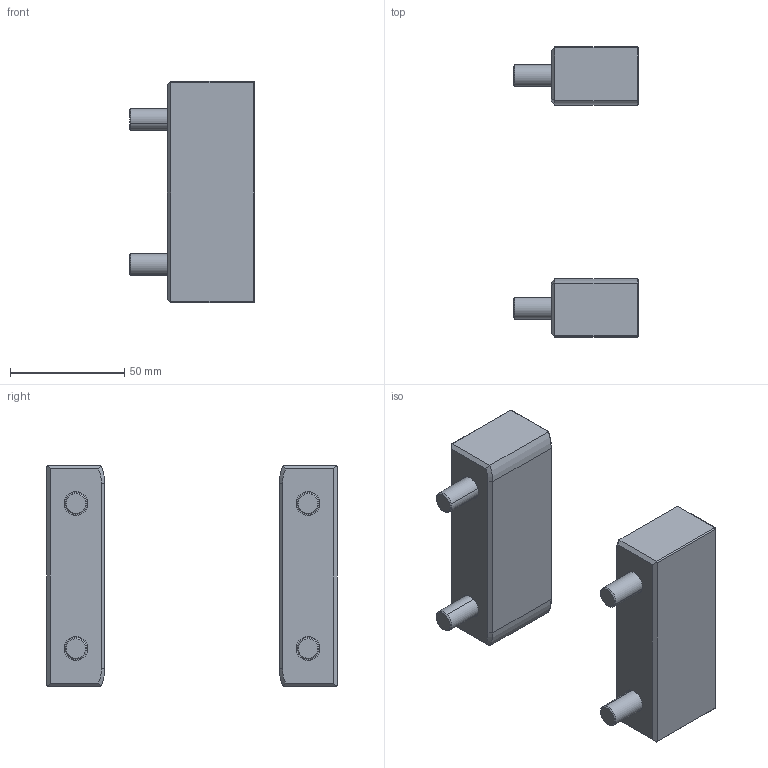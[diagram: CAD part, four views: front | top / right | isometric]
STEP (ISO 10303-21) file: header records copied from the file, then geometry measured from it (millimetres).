
FILE_DESCRIPTION (( 'STEP AP203' ), '1' );
FILE_NAME ('BLG150L3.8.step', '2016-11-21T18:57:26', ( '' ), ( '' ), 'SwSTEP 2.0', 'SolidWorks 2014', '' );
FILE_SCHEMA (( 'CONFIG_CONTROL_DESIGN' ));
Length unit declared in the file: inch
Products named in the file (3): 3-8-16x175 SHCS; BLG150L3.8
Assembly tree (6 placements, depth 2):
  BLG150L3.8
    BLG150L3.8  x2
    3-8-16x175 SHCS  x4
Bounding box: 54.61 x 127.04 x 96.77 mm (x, y, z)
Volume: 186275.3 mm3; surface area: 41336 mm2
Topology: 6 solids, 6 shells, 164 faces, 356 edges, 212 vertices
Faces by surface type: plane 88, cylinder 48, cone 12, torus 12, sphere 4
Entity records: 2019 total; most frequent: DIRECTION 298, CARTESIAN_POINT 297, ORIENTED_EDGE 252, EDGE_CURVE 126, AXIS2_PLACEMENT_3D 113, VERTEX_POINT 76, LINE 72, VECTOR 72
